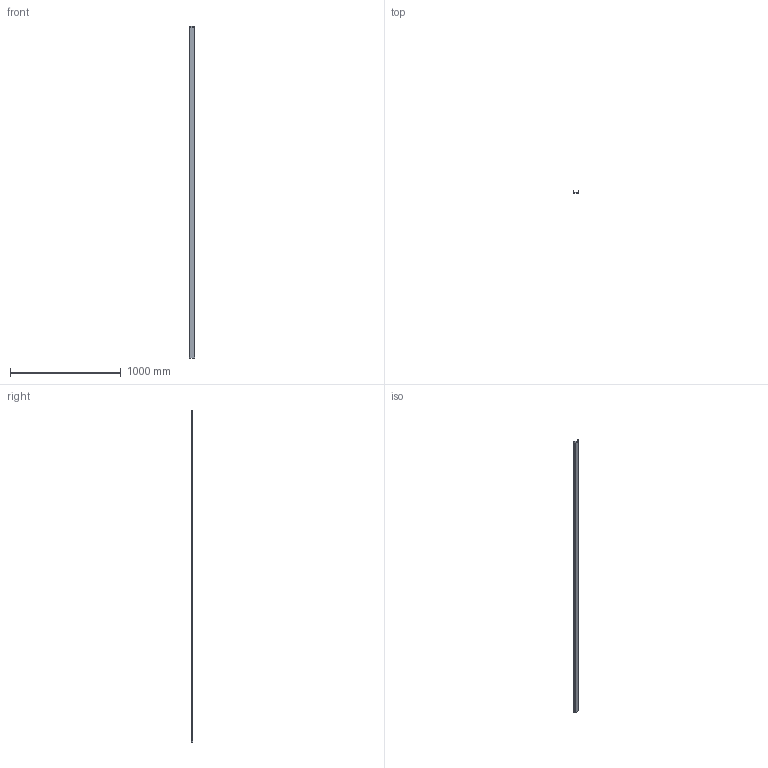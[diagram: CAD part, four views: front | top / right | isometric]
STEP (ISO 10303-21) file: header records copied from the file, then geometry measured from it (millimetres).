
FILE_DESCRIPTION (( 'STEP AP203' ), '1' );
FILE_NAME ('TERE 50.STEP', '2020-03-12T15:56:35', ( '' ), ( '' ), 'SwSTEP 2.0', 'SolidWorks 2019', '' );
FILE_SCHEMA (( 'CONFIG_CONTROL_DESIGN' ));
Length unit declared in the file: millimetre
Products named in the file (1): TERE 50
Bounding box: 53 x 15.8 x 3000 mm (x, y, z)
Volume: 131461 mm3; surface area: 482263.7 mm2
Topology: 1 solids, 1 shells, 111 faces, 425 edges, 308 vertices
Faces by surface type: plane 56, cylinder 52, bspline 3
Entity records: 5332 total; most frequent: CARTESIAN_POINT 1753, ORIENTED_EDGE 850, DIRECTION 637, EDGE_CURVE 425, VERTEX_POINT 308, VECTOR 213, LINE 213, AXIS2_PLACEMENT_3D 212
